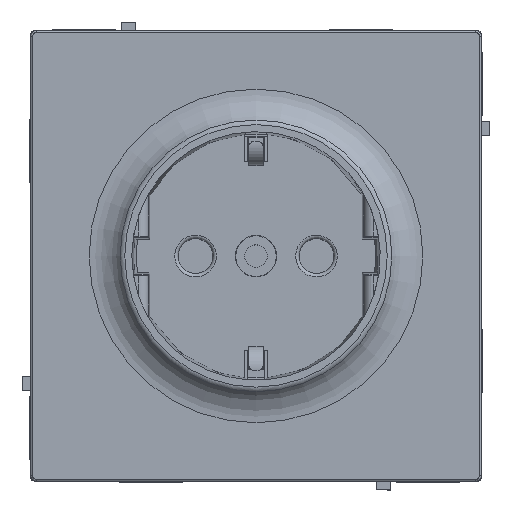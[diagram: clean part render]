
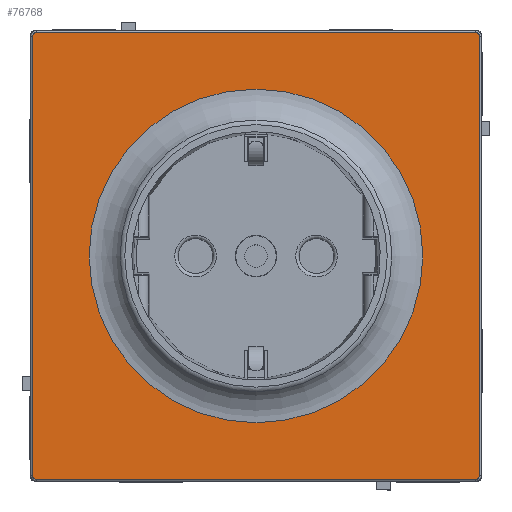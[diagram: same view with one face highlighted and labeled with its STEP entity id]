
A CAD part, top view. The second image highlights one B-rep face of the part: STEP entity #76768.
In plain terms, the highlighted planar face has unit normal (0, 0, 1).
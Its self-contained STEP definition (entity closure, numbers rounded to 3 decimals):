
#1609 = CARTESIAN_POINT ( 'NONE',  ( 34.494, 35.094, 7.2 ) ) ;
#2742 = ORIENTED_EDGE ( 'NONE', *, *, #19346, .F. ) ;
#4115 = CARTESIAN_POINT ( 'NONE',  ( 35.094, -34.845, 7.2 ) ) ;
#5483 = CARTESIAN_POINT ( 'NONE',  ( -26.2, 0., 7.2 ) ) ;
#5539 = EDGE_CURVE ( 'NONE', #61347, #86470, #59480, .T. ) ;
#6546 = DIRECTION ( 'NONE',  ( 0., -1., 0. ) ) ;
#7032 = EDGE_CURVE ( 'NONE', #52702, #12275, #87530, .T. ) ;
#8140 = EDGE_CURVE ( 'NONE', #64552, #23585, #10838, .T. ) ;
#9418 = CARTESIAN_POINT ( 'NONE',  ( -34.494, 35.094, 7.2 ) ) ;
#10838 = LINE ( 'NONE', #58592, #20249 ) ;
#12015 = ORIENTED_EDGE ( 'NONE', *, *, #74751, .F. ) ;
#12275 = VERTEX_POINT ( 'NONE', #34117 ) ;
#14984 = DIRECTION ( 'NONE',  ( -1., 0., 0. ) ) ;
#17021 = CARTESIAN_POINT ( 'NONE',  ( 34.494, -35.094, 7.2 ) ) ;
#18358 = DIRECTION ( 'NONE',  ( 1., 0., 0. ) ) ;
#18635 = CIRCLE ( 'NONE', #30020, 26.2 ) ;
#19116 = CARTESIAN_POINT ( 'NONE',  ( -35.094, 34.845, 7.2 ) ) ;
#19346 = EDGE_CURVE ( 'NONE', #64552, #24896, #76716, .T. ) ;
#20249 = VECTOR ( 'NONE', #57721, 1000. ) ;
#20847 = CARTESIAN_POINT ( 'NONE',  ( -35.094, -34.494, 7.2 ) ) ;
#23585 = VERTEX_POINT ( 'NONE', #17021 ) ;
#24634 = ORIENTED_EDGE ( 'NONE', *, *, #57152, .F. ) ;
#24896 = VERTEX_POINT ( 'NONE', #76737 ) ;
#25945 = PLANE ( 'NONE',  #77306 ) ;
#26370 = DIRECTION ( 'NONE',  ( 0., 1., 0. ) ) ;
#26522 = EDGE_CURVE ( 'NONE', #71427, #24896, #48006, .T. ) ;
#26791 = FACE_OUTER_BOUND ( 'NONE', #47468, .T. ) ;
#26864 = CARTESIAN_POINT ( 'NONE',  ( -35.389, 35.094, 7.2 ) ) ;
#28521 = DIRECTION ( 'NONE',  ( -1., 0., 0. ) ) ;
#28572 = ORIENTED_EDGE ( 'NONE', *, *, #72604, .T. ) ;
#28802 = DIRECTION ( 'NONE',  ( 0., 0., -1. ) ) ;
#29283 = CARTESIAN_POINT ( 'NONE',  ( 34.845, 35.094, 7.2 ) ) ;
#30020 = AXIS2_PLACEMENT_3D ( 'NONE', #48914, #28802, #14984 ) ;
#30480 = CARTESIAN_POINT ( 'NONE',  ( 35.094, -34.494, 7.2 ) ) ;
#30801 = CARTESIAN_POINT ( 'NONE',  ( -35.094, 34.494, 7.2 ) ) ;
#31865 = ORIENTED_EDGE ( 'NONE', *, *, #7032, .T. ) ;
#34117 = CARTESIAN_POINT ( 'NONE',  ( 35.094, 34.494, 7.2 ) ) ;
#35577 = ORIENTED_EDGE ( 'NONE', *, *, #26522, .T. ) ;
#35855 = EDGE_LOOP ( 'NONE', ( #28572 ) ) ;
#36712 = CARTESIAN_POINT ( 'NONE',  ( 34.845, -35.094, 7.2 ) ) ;
#39756 = FACE_BOUND ( 'NONE', #35855, .T. ) ;
#40080 = CARTESIAN_POINT ( 'NONE',  ( -34.845, 35.094, 7.2 ) ) ;
#47468 = EDGE_LOOP ( 'NONE', ( #24634, #59439, #63345, #35577, #2742, #77626, #12015, #31865 ) ) ;
#48006 = LINE ( 'NONE', #54281, #77176 ) ;
#48470 = CARTESIAN_POINT ( 'NONE',  ( 35.094, 34.845, 7.2 ) ) ;
#48914 = CARTESIAN_POINT ( 'NONE',  ( 0., 0., 7.2 ) ) ;
#52702 = VERTEX_POINT ( 'NONE', #53343 ) ;
#53343 = CARTESIAN_POINT ( 'NONE',  ( 35.094, -34.494, 7.2 ) ) ;
#54281 = CARTESIAN_POINT ( 'NONE',  ( -35.094, -35.389, 7.2 ) ) ;
#54342 = VECTOR ( 'NONE', #26370, 1000. ) ;
#54357 = CARTESIAN_POINT ( 'NONE',  ( -34.845, -35.094, 7.2 ) ) ;
#57152 = EDGE_CURVE ( 'NONE', #61347, #12275, #80394, .T. ) ;
#57721 = DIRECTION ( 'NONE',  ( 1., 0., 0. ) ) ;
#58592 = CARTESIAN_POINT ( 'NONE',  ( 35.389, -35.094, 7.2 ) ) ;
#59439 = ORIENTED_EDGE ( 'NONE', *, *, #5539, .T. ) ;
#59480 = LINE ( 'NONE', #26864, #86889 ) ;
#59845 = DIRECTION ( 'NONE',  ( 0., 0., 1. ) ) ;
#61347 = VERTEX_POINT ( 'NONE', #71208 ) ;
#61923 = CARTESIAN_POINT ( 'NONE',  ( -35.094, -34.845, 7.2 ) ) ;
#62802 = EDGE_CURVE ( 'NONE', #71427, #86470, #81425, .T. ) ;
#63345 = ORIENTED_EDGE ( 'NONE', *, *, #62802, .F. ) ;
#64552 = VERTEX_POINT ( 'NONE', #79587 ) ;
#65973 = CARTESIAN_POINT ( 'NONE',  ( -34.494, 35.094, 7.2 ) ) ;
#66358 =( BOUNDED_CURVE ( )  B_SPLINE_CURVE ( 3, ( #30480, #4115, #36712, #84926 ),
 .UNSPECIFIED., .F., .T. ) 
 B_SPLINE_CURVE_WITH_KNOTS ( ( 4, 4 ),
 ( 5.498, 7.068 ),
 .UNSPECIFIED. ) 
 CURVE ( )  GEOMETRIC_REPRESENTATION_ITEM ( )  RATIONAL_B_SPLINE_CURVE ( ( 1., 0.805, 0.805, 1. ) ) 
 REPRESENTATION_ITEM ( '' )  );
#67854 = CARTESIAN_POINT ( 'NONE',  ( 35.094, 35.389, 7.2 ) ) ;
#71208 = CARTESIAN_POINT ( 'NONE',  ( 34.494, 35.094, 7.2 ) ) ;
#71427 = VERTEX_POINT ( 'NONE', #30801 ) ;
#72604 = EDGE_CURVE ( 'NONE', #73756, #73756, #18635, .T. ) ;
#73123 = CARTESIAN_POINT ( 'NONE',  ( -35.094, 34.494, 7.2 ) ) ;
#73259 = CARTESIAN_POINT ( 'NONE',  ( 0., 0., 7.2 ) ) ;
#73756 = VERTEX_POINT ( 'NONE', #5483 ) ;
#74751 = EDGE_CURVE ( 'NONE', #52702, #23585, #66358, .T. ) ;
#76142 = CARTESIAN_POINT ( 'NONE',  ( 35.094, 34.494, 7.2 ) ) ;
#76716 =( BOUNDED_CURVE ( )  B_SPLINE_CURVE ( 3, ( #82427, #54357, #61923, #20847 ),
 .UNSPECIFIED., .F., .F. ) 
 B_SPLINE_CURVE_WITH_KNOTS ( ( 4, 4 ),
 ( 5.498, 7.068 ),
 .UNSPECIFIED. ) 
 CURVE ( )  GEOMETRIC_REPRESENTATION_ITEM ( )  RATIONAL_B_SPLINE_CURVE ( ( 1., 0.805, 0.805, 1. ) ) 
 REPRESENTATION_ITEM ( '' )  );
#76737 = CARTESIAN_POINT ( 'NONE',  ( -35.094, -34.494, 7.2 ) ) ;
#76768 = ADVANCED_FACE ( 'NONE', ( #39756, #26791 ), #25945, .T. ) ;
#77176 = VECTOR ( 'NONE', #6546, 1000. ) ;
#77306 = AXIS2_PLACEMENT_3D ( 'NONE', #73259, #59845, #18358 ) ;
#77626 = ORIENTED_EDGE ( 'NONE', *, *, #8140, .T. ) ;
#79587 = CARTESIAN_POINT ( 'NONE',  ( -34.494, -35.094, 7.2 ) ) ;
#80394 =( BOUNDED_CURVE ( )  B_SPLINE_CURVE ( 3, ( #1609, #29283, #48470, #76142 ),
 .UNSPECIFIED., .F., .T. ) 
 B_SPLINE_CURVE_WITH_KNOTS ( ( 4, 4 ),
 ( 5.498, 7.068 ),
 .UNSPECIFIED. ) 
 CURVE ( )  GEOMETRIC_REPRESENTATION_ITEM ( )  RATIONAL_B_SPLINE_CURVE ( ( 1., 0.805, 0.805, 1. ) ) 
 REPRESENTATION_ITEM ( '' )  );
#81425 =( BOUNDED_CURVE ( )  B_SPLINE_CURVE ( 3, ( #73123, #19116, #40080, #65973 ),
 .UNSPECIFIED., .F., .F. ) 
 B_SPLINE_CURVE_WITH_KNOTS ( ( 4, 4 ),
 ( 5.498, 7.068 ),
 .UNSPECIFIED. ) 
 CURVE ( )  GEOMETRIC_REPRESENTATION_ITEM ( )  RATIONAL_B_SPLINE_CURVE ( ( 1., 0.805, 0.805, 1. ) ) 
 REPRESENTATION_ITEM ( '' )  );
#82427 = CARTESIAN_POINT ( 'NONE',  ( -34.494, -35.094, 7.2 ) ) ;
#84926 = CARTESIAN_POINT ( 'NONE',  ( 34.494, -35.094, 7.2 ) ) ;
#86470 = VERTEX_POINT ( 'NONE', #9418 ) ;
#86889 = VECTOR ( 'NONE', #28521, 1000. ) ;
#87530 = LINE ( 'NONE', #67854, #54342 ) ;
